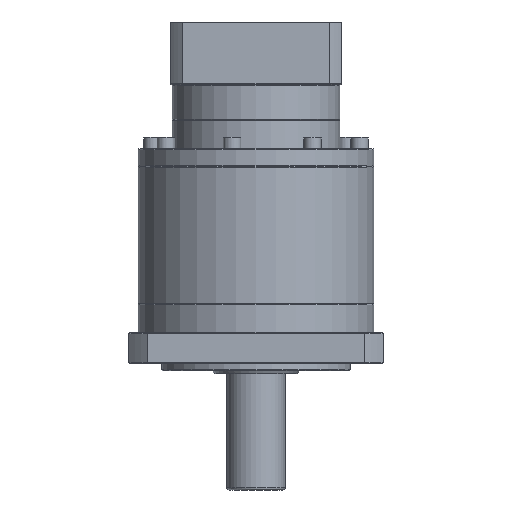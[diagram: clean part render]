
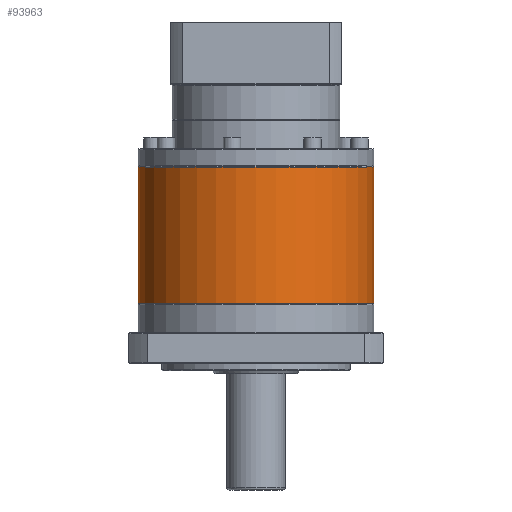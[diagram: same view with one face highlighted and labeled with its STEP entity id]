
A CAD part, front view. The second image highlights one B-rep face of the part: STEP entity #93963.
In plain terms, the highlighted cylindrical face has radius 81 mm (diameter 162 mm), a partial arc.
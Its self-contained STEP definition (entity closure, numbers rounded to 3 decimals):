
#1976 = AXIS2_PLACEMENT_3D ( 'NONE', #35400, #84944, #35025 ) ;
#4204 = DIRECTION ( 'NONE',  ( 0., 0., -1. ) ) ;
#4965 = DIRECTION ( 'NONE',  ( -1., 0., 0. ) ) ;
#7513 = AXIS2_PLACEMENT_3D ( 'NONE', #55637, #64011, #4965 ) ;
#8450 = CARTESIAN_POINT ( 'NONE',  ( -31.465, 85.994, -48.801 ) ) ;
#10529 = FACE_OUTER_BOUND ( 'NONE', #50420, .T. ) ;
#14140 = EDGE_CURVE ( 'NONE', #48595, #99280, #61597, .T. ) ;
#15830 = CARTESIAN_POINT ( 'NONE',  ( -193.465, 85.994, -48.801 ) ) ;
#21147 = ORIENTED_EDGE ( 'NONE', *, *, #14140, .T. ) ;
#27319 = CIRCLE ( 'NONE', #7513, 81. ) ;
#27822 = LINE ( 'NONE', #47076, #69592 ) ;
#28637 = DIRECTION ( 'NONE',  ( 0., 0., -1. ) ) ;
#35025 = DIRECTION ( 'NONE',  ( -1., 0., 0. ) ) ;
#35400 = CARTESIAN_POINT ( 'NONE',  ( -112.465, 85.994, -142.301 ) ) ;
#46662 = VERTEX_POINT ( 'NONE', #15830 ) ;
#47076 = CARTESIAN_POINT ( 'NONE',  ( -193.465, 85.994, -48.301 ) ) ;
#48595 = VERTEX_POINT ( 'NONE', #78965 ) ;
#50420 = EDGE_LOOP ( 'NONE', ( #88595, #92821, #103107, #21147 ) ) ;
#50942 = CYLINDRICAL_SURFACE ( 'NONE', #62224, 81. ) ;
#55637 = CARTESIAN_POINT ( 'NONE',  ( -112.465, 85.994, -48.801 ) ) ;
#60809 = VECTOR ( 'NONE', #4204, 1000. ) ;
#61597 = CIRCLE ( 'NONE', #1976, 81. ) ;
#62224 = AXIS2_PLACEMENT_3D ( 'NONE', #79317, #28637, #86622 ) ;
#64011 = DIRECTION ( 'NONE',  ( 0., 0., -1. ) ) ;
#66633 = VERTEX_POINT ( 'NONE', #8450 ) ;
#69592 = VECTOR ( 'NONE', #96636, 1000. ) ;
#77145 = CARTESIAN_POINT ( 'NONE',  ( -31.465, 85.994, -142.301 ) ) ;
#78965 = CARTESIAN_POINT ( 'NONE',  ( -193.465, 85.994, -142.301 ) ) ;
#79317 = CARTESIAN_POINT ( 'NONE',  ( -112.465, 85.994, -48.301 ) ) ;
#83732 = EDGE_CURVE ( 'NONE', #66633, #99280, #96082, .T. ) ;
#84944 = DIRECTION ( 'NONE',  ( 0., 0., 1. ) ) ;
#85796 = EDGE_CURVE ( 'NONE', #66633, #46662, #27319, .T. ) ;
#86622 = DIRECTION ( 'NONE',  ( -1., 0., 0. ) ) ;
#88595 = ORIENTED_EDGE ( 'NONE', *, *, #83732, .F. ) ;
#92821 = ORIENTED_EDGE ( 'NONE', *, *, #85796, .T. ) ;
#93963 = ADVANCED_FACE ( 'NONE', ( #10529 ), #50942, .T. ) ;
#96082 = LINE ( 'NONE', #97156, #60809 ) ;
#96636 = DIRECTION ( 'NONE',  ( 0., 0., -1. ) ) ;
#97156 = CARTESIAN_POINT ( 'NONE',  ( -31.465, 85.994, -48.301 ) ) ;
#98623 = EDGE_CURVE ( 'NONE', #46662, #48595, #27822, .T. ) ;
#99280 = VERTEX_POINT ( 'NONE', #77145 ) ;
#103107 = ORIENTED_EDGE ( 'NONE', *, *, #98623, .T. ) ;
